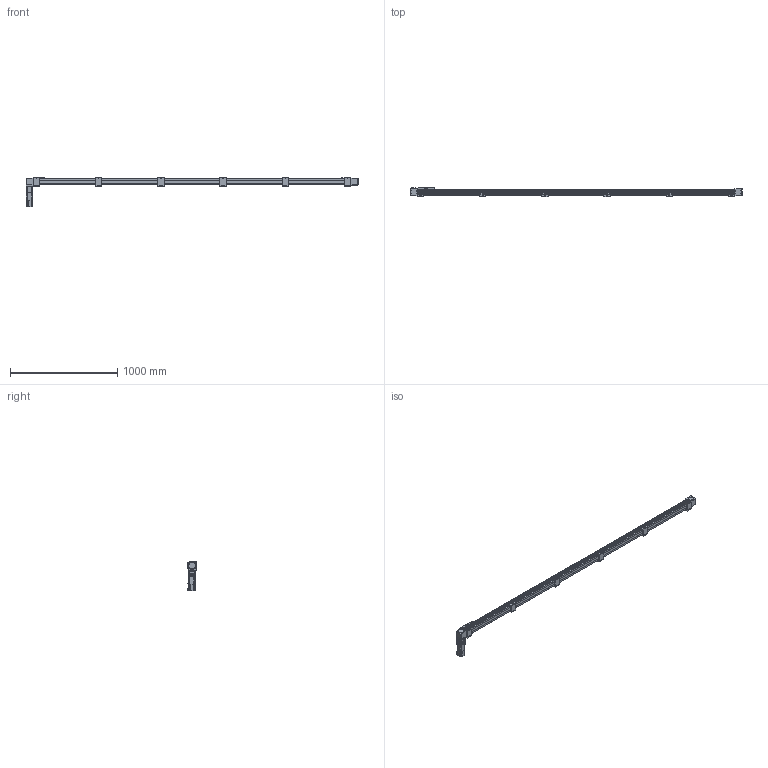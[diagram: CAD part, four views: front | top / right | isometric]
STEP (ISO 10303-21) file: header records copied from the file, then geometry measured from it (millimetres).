
FILE_DESCRIPTION(/* description */ ('STEP AP214'),/* implementation_level */ '2;1');
FILE_NAME(/* name */ 'SK60-P13-S2800-BR-T40-C1-N(0)',/* time_stamp */ '2023-04-06T04:03:27+02:00',/* author */ ('License CC BY-ND 4.0'),/* organization */ ('CADENAS'),/* preprocessor_version */ 'ST-DEVELOPER v19.3',/* originating_system */ 'PARTsolutions',/* authorisation */ ' ');
FILE_SCHEMA (('AUTOMOTIVE_DESIGN {1 0 10303 214 3 1 1}'));
Length unit declared in the file: millimetre
Products named in the file (11): SK60-P13-S2800-BR-T40-C1-N(0); PSC140-sensor; SK60-S450_seat; SK60-S450-BL-C1_slider; SK60_body3; SK60_body6; SK60-BL_body2; T40-p1; SK60_body5; SK60_body4; SK60-S2800-BR-C1_body
Assembly tree (21 placements, depth 2):
  SK60-P13-S2800-BR-T40-C1-N(0)
    PSC140-sensor  x3
    SK60-S450_seat  x6
    SK60-S450-BL-C1_slider
    SK60_body3  x3
    SK60_body6  x2
    SK60-BL_body2  x2
    T40-p1
    SK60_body5
    SK60_body4
    SK60-S2800-BR-C1_body
Bounding box: 3100 x 90 x 279.1 mm (x, y, z)
Volume: 11132015 mm3; surface area: 1346980.1 mm2
Topology: 21 solids, 25 shells, 1010 faces, 2501 edges, 1650 vertices
Faces by surface type: plane 640, cylinder 330, cone 38, torus 2
Full cylindrical faces by diameter (mm): 2.8 x3, 3.3 x4, 4.2 x8, 4.5 x26, 4.6 x3, 4.917 x32, 5 x2, 5.478 x4, 5.5 x35, 6.5 x12, 8 x4, 8.5 x4, 9.988 x4, 10 x24, 13.556 x1, 14 x1, 14.586 x1, 19.692 x1, 38.432 x2, 43 x1, 44 x3, 47 x2, 50 x2
Entity records: 19403 total; most frequent: DIRECTION 3300, CARTESIAN_POINT 3293, ORIENTED_EDGE 3050, EDGE_CURVE 1525, AXIS2_PLACEMENT_3D 1104, LINE 1092, VECTOR 1092, VERTEX_POINT 1077
